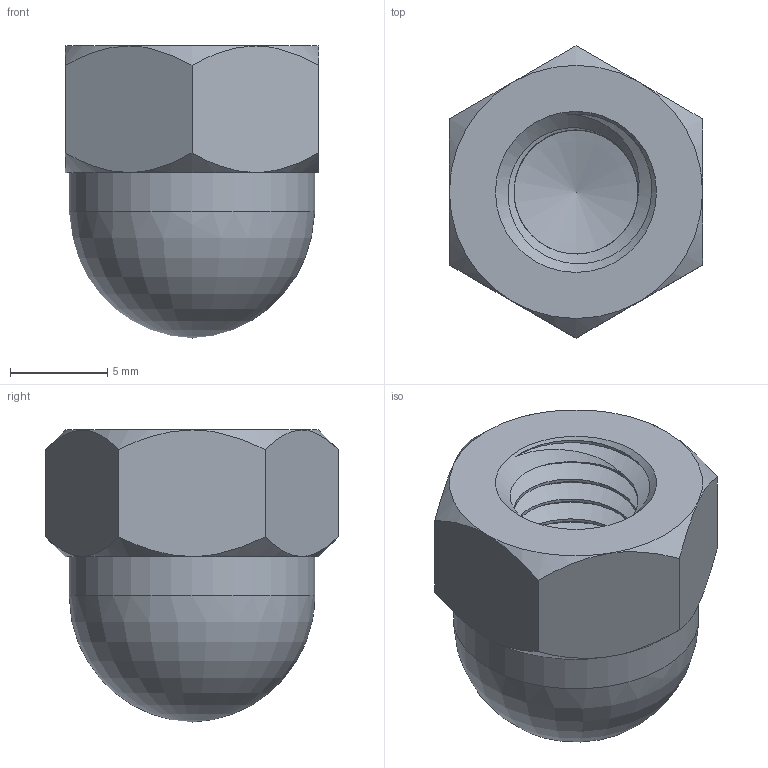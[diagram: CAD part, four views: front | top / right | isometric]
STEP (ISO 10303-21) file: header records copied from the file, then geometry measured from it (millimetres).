
FILE_DESCRIPTION(/* description */ ('STEP AP242 Edition 2','CAx-IF Rec.Pracs.---Representation and Presentation of Product Manufacturing Information (PMI)---4.0---2014-10-13','CAx-IF Rec.Pracs.---3D Tessellated Geometry---0.4---2014-09-14','2;1','CAx-IF Rec.Pracs.---User Defined Attributes---1.5---2016-08-15'),/* implementation_level */ '2;1');
FILE_NAME(/* name */ 'Assy_ForMFG - KD-D-552F',/* time_stamp */ '2026-05-15T19:56:38Z',/* author */ (''),/* organization */ (''),/* preprocessor_version */ 'ST-DEVELOPER v20',/* originating_system */ 'ONSHAPE BY PTC INC, 1.215',/* authorisation */ ' ');
FILE_SCHEMA (('AP242_MANAGED_MODEL_BASED_3D_ENGINEERING_MIM_LF { 1 0 10303 442 3 1 4 }'));
Length unit declared in the file: metre
Products named in the file (1): KD-D-552F
Bounding box: 13 x 15.01 x 15 mm (x, y, z)
Volume: 1273.9 mm3; surface area: 1184.8 mm2
Topology: 1 solids, 1 shells, 29 faces, 103 edges, 76 vertices
Faces by surface type: cone 15, plane 8, cylinder 3, bspline 2, torus 1
Full cylindrical faces by diameter (mm): 12.622 x1
Entity records: 2109 total; most frequent: CARTESIAN_POINT 1390, ORIENTED_EDGE 186, DIRECTION 106, EDGE_CURVE 93, VERTEX_POINT 73, AXIS2_PLACEMENT_3D 50, FACE_BOUND 34, EDGE_LOOP 32
